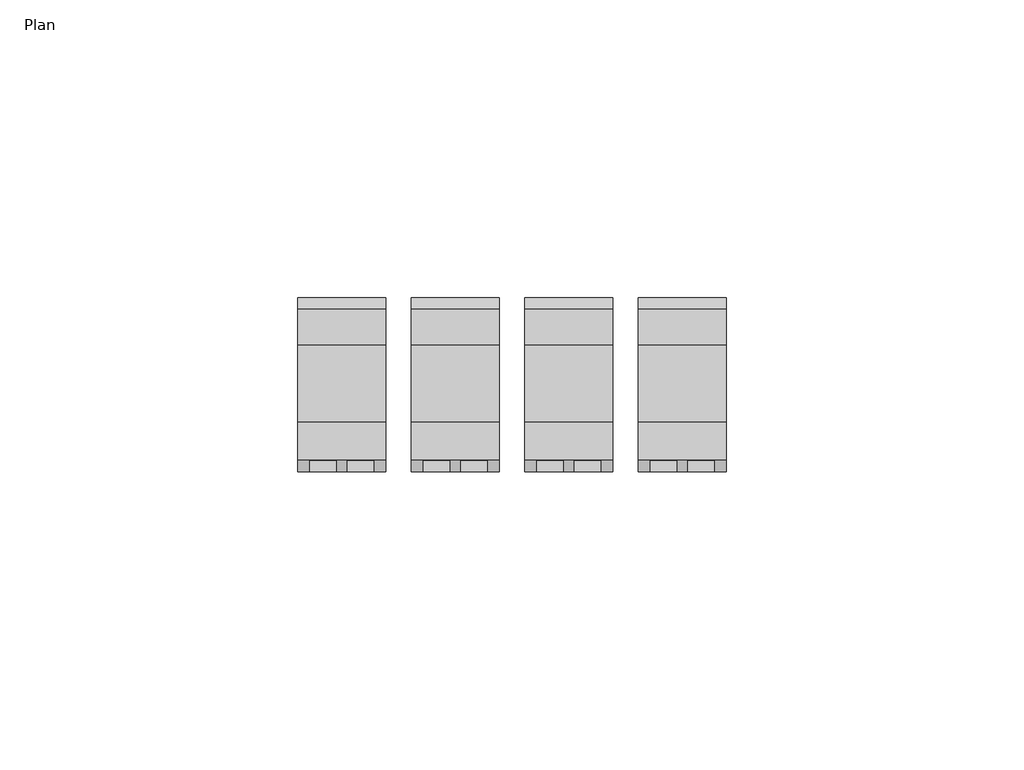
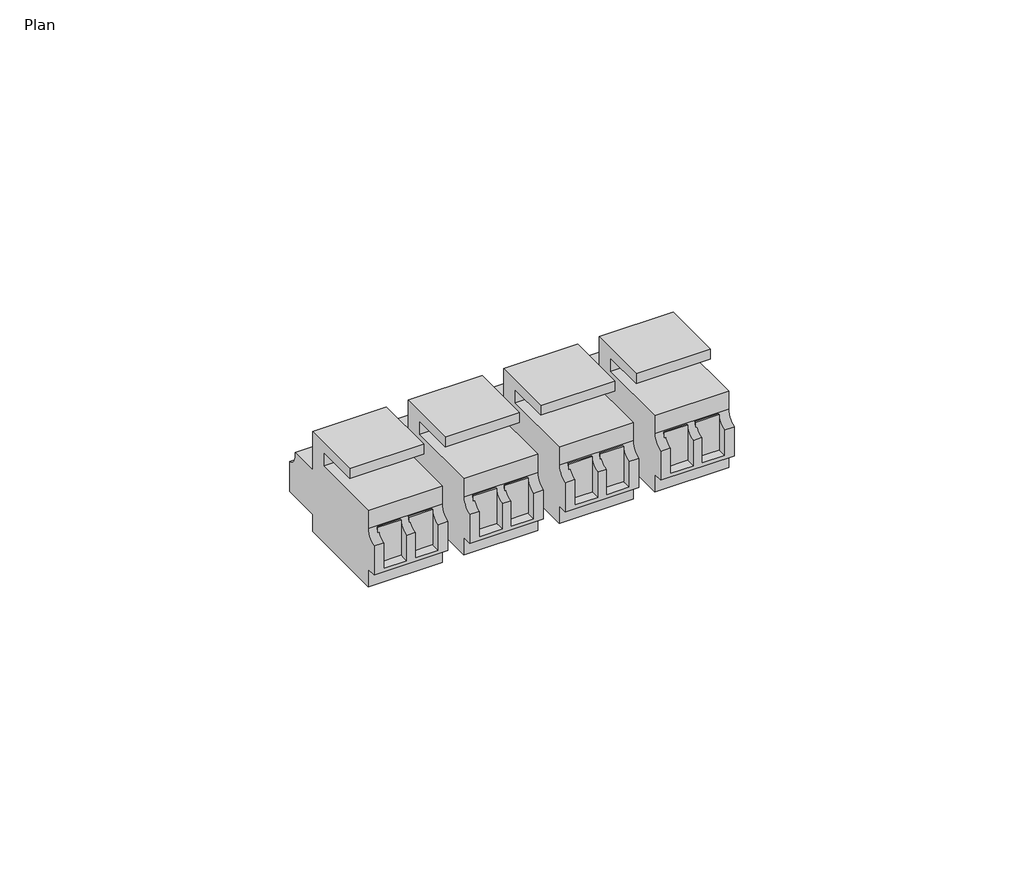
# One storey: 4 electric appliances.
"""IFC4 building model written with IfcOpenShell, lengths in millimetres."""

from ifc_helpers import new_model, si_unit, origin, place, context, project, spatial, transform, mapped, element, save
from components import electric_appliance_7dd04773

model = new_model("IFC4")

# Units and contexts
model_context = context("Model", 3, world=origin())
ifc_project = project(units=[si_unit("LENGTHUNIT", "METRE", prefix="MILLI")], contexts=[model_context])

# Site, building, storey
site = spatial("IfcSite", under=ifc_project)
building = spatial("IfcBuilding", under=site)
storey = spatial("IfcBuildingStorey", under=building, Name="Plan", Elevation=0.0)

# Electric appliances
placement = place(None, origin())
electric_appliance_shape = electric_appliance_7dd04773(model_context)
element("IfcElectricAppliance", 1, ObjectType="Data_Device-Network-Leviton-QuickPort-LC_Adapter : QuickPort, LC Shuttered Adapter - Orange", at=placement, inside=storey, context=model_context, shape_type="MappedRepresentation", body=[
    mapped(electric_appliance_shape, transform((2466.7829608, -780.1325522, 308.1801487), x_axis=(1.0, 0.0, 0.0), y_axis=(0.0, 0.0, 1.0), z_axis=(0.0, -1.0, 0.0))),
])
element("IfcElectricAppliance", 2, ObjectType="Data_Device-Network-Leviton-QuickPort-LC_Adapter : QuickPort, LC Shuttered Adapter - Red", at=placement, inside=storey, context=model_context, shape_type="MappedRepresentation", body=[
    mapped(electric_appliance_shape, transform((2485.8329608, -780.1325522, 308.1801487), x_axis=(1.0, 0.0, 0.0), y_axis=(0.0, 0.0, 1.0), z_axis=(0.0, -1.0, 0.0))),
])
element("IfcElectricAppliance", 3, ObjectType="Data_Device-Network-Leviton-QuickPort-LC_Adapter : QuickPort, LC Shuttered Adapter - Grey", at=placement, inside=storey, context=model_context, shape_type="MappedRepresentation", body=[
    mapped(electric_appliance_shape, transform((2447.7329608, -780.1325522, 308.1801487), x_axis=(1.0, 0.0, 0.0), y_axis=(0.0, 0.0, 1.0), z_axis=(0.0, -1.0, 0.0))),
])
element("IfcElectricAppliance", 4, ObjectType="Data_Device-Network-Leviton-QuickPort-LC_Adapter : QuickPort, LC Shuttered Adapter - Green", at=placement, inside=storey, context=model_context, shape_type="MappedRepresentation", body=[
    mapped(electric_appliance_shape, transform((2428.6829608, -780.1325522, 308.1801487), x_axis=(1.0, 0.0, 0.0), y_axis=(0.0, 0.0, 1.0), z_axis=(0.0, -1.0, 0.0))),
])

save(model, "model.ifc")
